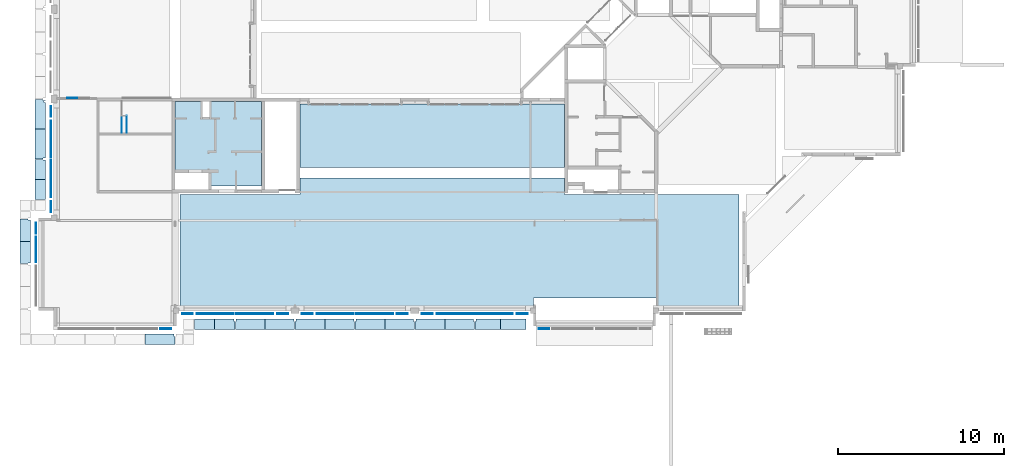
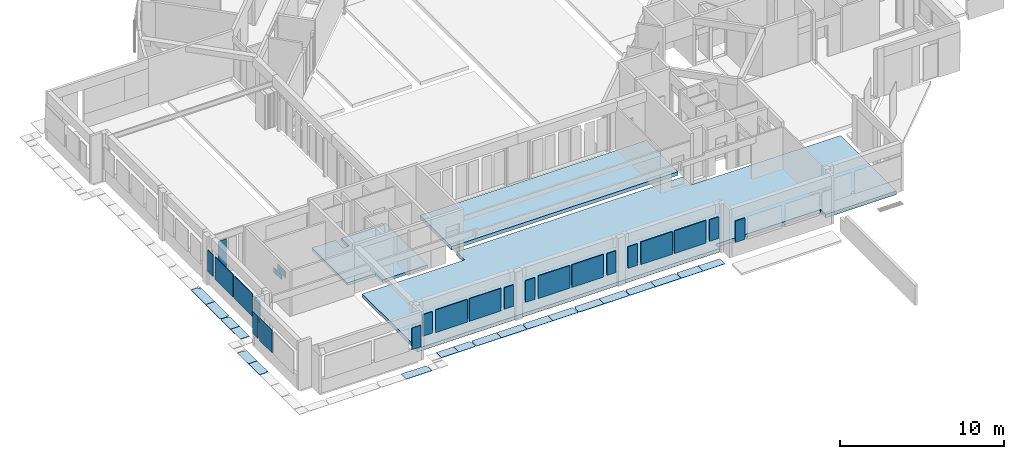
# One storey, part 4 of 30: 24 slabs, 21 plates.
"""IFC4X3_ADD2 building model written with IfcOpenShell, lengths in millimetres."""

from ifc_helpers import new_model, si_unit, direction, frame, frame_2d, origin_with_axes, origin_2d_with_axis, place, context, subcontext, project, spatial, polyline, rectangle, outline, extrude, source, transform, mapped, material, type_object, element, save


model = new_model("IFC4X3_ADD2")

# Units and contexts
model_context = context("Model", 3, precision=1e-05, world=origin_with_axes(), true_north=direction((0.0, 1.0)))
body_context = subcontext(model_context, "Body", "Model", "MODEL_VIEW")
ifc_project = project(units=[si_unit("LENGTHUNIT", "METRE", prefix="MILLI"), si_unit("AREAUNIT", "SQUARE_METRE"), si_unit("VOLUMEUNIT", "CUBIC_METRE"), si_unit("PLANEANGLEUNIT", "RADIAN"), si_unit("TIMEUNIT", "SECOND"), si_unit("MASSUNIT", "GRAM")], contexts=[model_context])

# Site, building, storey
site_placement = place(None, origin_with_axes())
site = spatial("IfcSite", under=ifc_project, at=site_placement, Name="Site", CompositionType="ELEMENT")
building_placement = place(site_placement, origin_with_axes())
building = spatial("IfcBuilding", under=site, at=building_placement, Name="IFC Building Story")
storey_placement = place(building_placement, origin_with_axes())
storey = spatial("IfcBuildingStorey", under=building, at=storey_placement, Name="000", Elevation=0.0)

# Slab
ifc_material_1 = material(Name="BB_Beton_Bestaand")
slab_type_1 = type_object("IfcSlabType", Name="BB_Beton_Bestaand 200", PredefinedType="FLOOR", material=ifc_material_1)
slab_1_placement = place(storey_placement, frame((-43499.99999999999, 7400.000000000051, -280.0), z_axis=(0.0, 0.0, 1.0), x_axis=(1.0, 0.0, 0.0)))
element("IfcSlab", 1, at=slab_1_placement, inside=storey, type_object=slab_type_1, Name="Floor:BB_XX_Vloer uit beton, 200 mm", ObjectType="Floor:BB_XX_Vloer uit beton, 200 mm", PredefinedType="FLOOR", context=body_context, shape_type="SweptSolid", body=[
    extrude(outline(polyline([(-181.999999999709, -3030.002439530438), (-181.999999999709, -2230.002439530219), (-2181.999999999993, -2230.002439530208), (-2181.999999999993, 2070.001626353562), (-531.9999999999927, 2070.001626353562), (-531.9999999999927, 1120.001626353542), (-122.0, 1120.001626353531), (-122.0, 2070.001626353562), (3017.999999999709, 2070.001626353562), (3017.999999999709, -3030.002439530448), (-181.999999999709, -3030.002439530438)])), frame((2181.999999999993, 3030.002439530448, 0.0), z_axis=(0.0, 0.0, 1.0), x_axis=(1.0, 0.0, 0.0)), (0.0, 0.0, 1.0), 200.0),
])

# Plates
ifc_material_2 = material(Name="BB_Glas")
shared_shape_1 = source(origin_with_axes(), body_context, "Body", "SweptSolid", [
    extrude(rectangle(XDim=1602.000000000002, YDim=652.000000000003, at=frame_2d((0.0, 0.0), x_axis=(0.0, 1.0))), frame((0.0, 0.0, -44.0), z_axis=(0.0, 0.0, 1.0), x_axis=(1.0, 0.0, 0.0)), (0.0, 0.0, 1.0), 44.0),
])
for number, where, z_axis, x_axis in (
    (2, (-28356.0, -287.499999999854, 1765.0), (0.0, -1.0, 0.0), (1.0, 0.0, 0.0)),
    (3, (-22644.0, -287.499999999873, 1765.0), (0.0, -1.0, 0.0), (1.0, 0.0, 0.0)),
    (4, (-21336.0, -1187.50000000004, 1765.0), (0.0, -1.0, 0.0), (1.0, 0.0, 0.0)),
    (5, (-35556.0, -287.499999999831, 1765.0), (0.0, -1.0, 0.0), (1.0, 0.0, 0.0)),
    (6, (-29844.0, -287.49999999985, 1765.0), (0.0, -1.0, 0.0), (1.0, 0.0, 0.0)),
    (7, (-42756.0, -287.499999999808, 1765.0), (0.0, -1.0, 0.0), (1.0, 0.0, 0.0)),
    (8, (-37044.0, -287.499999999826, 1765.0), (0.0, -1.0, 0.0), (1.0, 0.0, 0.0)),
    (9, (-50987.4999999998, 11886.0, 1765.0), (-1.0, 0.0, 0.0), (0.0, -1.0, 0.0)),
    (10, (-50987.4999999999, 6174.0, 1765.0), (-1.0, 0.0, 0.0), (0.0, -1.0, 0.0)),
    (11, (-51887.5000000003, 4866.0, 1765.0), (-1.0, 0.0, 0.0), (0.0, -1.0, 0.0)),
):
    element("IfcPlate", number, at=place(storey_placement, frame(where, z_axis=z_axis, x_axis=x_axis)), inside=storey, material=ifc_material_2, Name="BB_07.06_Buitenbeglazing, rechthoekig_GMO:07.06.72#02_Drievoudige beglazing, 44 mm, A/A*/P4A RC2, -1 en +0", ObjectType="BB_07.06_Buitenbeglazing, rechthoekig_GMO:07.06.72#02_Drievoudige beglazing, 44 mm, A/A*/P4A RC2, -1 en +0", PredefinedType="USERDEFINED", context=body_context, shape_type="MappedRepresentation", body=[
        mapped(shared_shape_1, transform((0.0, 0.0, 0.0))),
    ])
shared_shape_2 = source(origin_with_axes(), body_context, "Body", "SweptSolid", [
    extrude(rectangle(XDim=2222.0, YDim=1680.000000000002, at=origin_2d_with_axis()), frame((0.0, 0.0, -44.0), z_axis=(0.0, 0.0, 1.0), x_axis=(1.0, 0.0, 0.0)), (0.0, 0.0, 1.0), 44.0),
])
for number, where, z_axis, x_axis in (
    (12, (-26681.0, -287.499999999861, 1765.0), (0.0, -1.0, 0.0), (1.0, 0.0, 0.0)),
    (13, (-24319.0, -287.499999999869, 1765.0), (0.0, -1.0, 0.0), (1.0, 0.0, 0.0)),
    (14, (-33881.0, -287.499999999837, 1765.0), (0.0, -1.0, 0.0), (1.0, 0.0, 0.0)),
    (15, (-31519.0, -287.499999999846, 1765.0), (0.0, -1.0, 0.0), (1.0, 0.0, 0.0)),
    (16, (-41081.0, -287.499999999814, 1765.0), (0.0, -1.0, 0.0), (1.0, 0.0, 0.0)),
    (17, (-38719.0, -287.499999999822, 1765.0), (0.0, -1.0, 0.0), (1.0, 0.0, 0.0)),
    (18, (-50987.4999999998, 10211.0, 1765.0), (-1.0, 0.0, 0.0), (0.0, -1.0, 0.0)),
    (19, (-50987.4999999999, 7849.0, 1765.0), (-1.0, 0.0, 0.0), (0.0, -1.0, 0.0)),
):
    element("IfcPlate", number, at=place(storey_placement, frame(where, z_axis=z_axis, x_axis=x_axis)), inside=storey, material=ifc_material_2, Name="BB_07.06_Buitenbeglazing, rechthoekig_GMO:07.06.72#02_Drievoudige beglazing, 44 mm, A/A*/P4A RC2, -1 en +0", ObjectType="BB_07.06_Buitenbeglazing, rechthoekig_GMO:07.06.72#02_Drievoudige beglazing, 44 mm, A/A*/P4A RC2, -1 en +0", PredefinedType="USERDEFINED", context=body_context, shape_type="MappedRepresentation", body=[
        mapped(shared_shape_2, transform((0.0, 0.0, 0.0))),
    ])
shared_shape_3 = source(origin_with_axes(), body_context, "Body", "SweptSolid", [
    extrude(rectangle(XDim=1602.000000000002, YDim=652.0000000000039, at=frame_2d((0.0, 0.0), x_axis=(0.0, 1.0))), frame((0.0, 0.0, -44.0), z_axis=(0.0, 0.0, 1.0), x_axis=(1.0, 0.0, 0.0)), (0.0, 0.0, 1.0), 44.0),
])
plate_1_placement = place(storey_placement, frame((-44064.0, -1187.49999999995, 1765.0), z_axis=(0.0, -1.0, 0.0), x_axis=(-1.0, 0.0, 0.0)))
element("IfcPlate", 20, at=plate_1_placement, inside=storey, material=ifc_material_2, Name="BB_07.06_Buitenbeglazing, rechthoekig_GMO:07.06.72#02_Drievoudige beglazing, 44 mm, A/A*/P4A RC2, -1 en +0", ObjectType="BB_07.06_Buitenbeglazing, rechthoekig_GMO:07.06.72#02_Drievoudige beglazing, 44 mm, A/A*/P4A RC2, -1 en +0", PredefinedType="USERDEFINED", context=body_context, shape_type="MappedRepresentation", body=[
    mapped(shared_shape_3, transform((0.0, 0.0, 0.0))),
])
shared_shape_4 = source(origin_with_axes(), body_context, "Body", "SweptSolid", [
    extrude(rectangle(XDim=1680.000000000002, YDim=1532.000000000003, at=frame_2d((0.0, 0.0), x_axis=(0.0, 1.0))), frame((0.0, 0.0, -44.0), z_axis=(0.0, 0.0, 1.0), x_axis=(1.0, 0.0, 0.0)), (0.0, 0.0, 1.0), 44.0),
])
plate_2_placement = place(storey_placement, frame((-51887.5000000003, 3596.0, 1765.0), z_axis=(-1.0, 0.0, 0.0), x_axis=(0.0, -1.0, 0.0)))
element("IfcPlate", 21, at=plate_2_placement, inside=storey, material=ifc_material_2, Name="BB_07.06_Buitenbeglazing, rechthoekig_GMO:07.06.72#02_Drievoudige beglazing, 44 mm, A/A*/P4A RC2, -1 en +0", ObjectType="BB_07.06_Buitenbeglazing, rechthoekig_GMO:07.06.72#02_Drievoudige beglazing, 44 mm, A/A*/P4A RC2, -1 en +0", PredefinedType="USERDEFINED", context=body_context, shape_type="MappedRepresentation", body=[
    mapped(shared_shape_4, transform((0.0, 0.0, 0.0))),
])
shared_shape_5 = source(origin_with_axes(), body_context, "Body", "SweptSolid", [
    extrude(rectangle(XDim=2462.0, YDim=592.500000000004, at=frame_2d((0.0, 0.0), x_axis=(0.0, 1.0))), frame((0.0, 0.0, -17.0), z_axis=(0.0, 0.0, 1.0), x_axis=(1.0, 0.0, 0.0)), (0.0, 0.0, 1.0), 17.0),
])
plate_3_placement = place(storey_placement, frame((-49686.7499999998, 12703.0040658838, 1315.0), z_axis=(0.0, 1.0, 0.0), x_axis=(-1.0, 0.0, 0.0)))
element("IfcPlate", 22, at=plate_3_placement, inside=storey, material=ifc_material_2, Name="BB_10.10_Binnenbeglazing, rechthoekig_GMO:10.10.32#02_Enkelvoudige beglazing, 2B2, 40dB", ObjectType="BB_10.10_Binnenbeglazing, rechthoekig_GMO:10.10.32#02_Enkelvoudige beglazing, 2B2, 40dB", PredefinedType="USERDEFINED", context=body_context, shape_type="MappedRepresentation", body=[
    mapped(shared_shape_5, transform((0.0, 0.0, 0.0))),
])

# Slabs
slab_type_2 = type_object("IfcSlabType", Name="BB_Beton_Bestaand 260", PredefinedType="FLOOR", material=ifc_material_1)
slab_2_placement = place(storey_placement, frame((-43200.00000000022, 95.00000000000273, -460.0), z_axis=(0.0, 0.0, 1.0), x_axis=(1.0, 0.0, 0.0)))
element("IfcSlab", 23, at=slab_2_placement, inside=storey, type_object=slab_type_2, Name="Floor:BB_XX_Vloer uit beton, 260 mm", ObjectType="Floor:BB_XX_Vloer uit beton, 260 mm", PredefinedType="FLOOR", context=body_context, shape_type="SweptSolid", body=[
    extrude(outline(polyline([(2274.999999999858, -3084.166666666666), (2274.999999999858, -3584.166666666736), (-18950.00000000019, -3584.166666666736), (-18950.0000000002, 3120.833333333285), (-11750.00000000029, 3120.833333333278), (-11750.00000000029, 4110.833333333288), (4150.000000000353, 4110.833333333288), (4150.000000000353, 3120.833333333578), (14624.99999999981, 3120.833333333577), (14624.99999999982, -3684.166666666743), (9650.00000000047, -3684.166666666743), (9650.000000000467, -3084.166666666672), (2274.999999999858, -3084.166666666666)])), frame((18950.0000000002, 3684.166666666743, 0.0), z_axis=(0.0, 0.0, 1.0), x_axis=(1.0, 0.0, 0.0)), (0.0, 0.0, 1.0), 260.0),
])
slab_3_placement = place(storey_placement, frame((-36000.0000000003, 8510.00000000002, -460.0), z_axis=(0.0, 0.0, 1.0), x_axis=(1.0, 0.0, 0.0)))
element("IfcSlab", 24, at=slab_3_placement, inside=storey, type_object=slab_type_2, Name="Floor:BB_XX_Vloer uit beton, 260 mm", ObjectType="Floor:BB_XX_Vloer uit beton, 260 mm", PredefinedType="FLOOR", context=body_context, shape_type="SweptSolid", body=[
    extrude(rectangle(XDim=15900.0000000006, YDim=3839.99999999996, at=origin_2d_with_axis()), frame((7950.000000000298, 1919.99999999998, 0.0), z_axis=(0.0, 0.0, 1.0), x_axis=(1.0, 0.0, 0.0)), (0.0, 0.0, 1.0), 260.0),
])
ifc_material_3 = material(Name="BB_09.08.21#03_Vloer_Verhoogd_Bestaande te verhogen")
slab_type_3 = type_object("IfcSlabType", Name="BB_09.08.21#03_Vloer_Verhoogd_Bestaande te verhogen 20", PredefinedType="FLOOR", material=ifc_material_3)
slab_4_placement = place(storey_placement, frame((-46715.0, 11625.0040658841, -200.0), z_axis=(-1.0, 0.0, 0.0), x_axis=(0.0, -1.0, 0.0)))
element("IfcSlab", 25, at=slab_4_placement, inside=storey, type_object=slab_type_3, Name="Basic Wall:BB_09.08.XX_Rand verhoogde vloer, 20 mm", ObjectType="Basic Wall:BB_09.08.XX_Rand verhoogde vloer, 20 mm", PredefinedType="FLOOR", context=body_context, shape_type="SweptSolid", body=[
    extrude(outline(polyline([(-500.0, 172.5), (500.0, 172.5), (500.0, -172.5), (-500.0, -172.5), (-500.0, 172.5)])), frame((500.0, 172.5, -20.0), z_axis=(0.0, 0.0, 1.0), x_axis=(1.0, 0.0, 0.0)), (0.0, 0.0, 1.0), 19.99999999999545),
])
slab_5_placement = place(storey_placement, frame((-46415.0, 11625.0040658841, -200.0), z_axis=(-1.0, 0.0, 0.0), x_axis=(0.0, -1.0, 0.0)))
element("IfcSlab", 26, at=slab_5_placement, inside=storey, type_object=slab_type_3, Name="Basic Wall:BB_09.08.XX_Rand verhoogde vloer, 20 mm", ObjectType="Basic Wall:BB_09.08.XX_Rand verhoogde vloer, 20 mm", PredefinedType="FLOOR", context=body_context, shape_type="SweptSolid", body=[
    extrude(outline(polyline([(-500.0, 247.5), (500.0, 247.5), (500.0, -247.5), (-500.0, -247.5), (-500.0, 247.5)])), frame((500.0, 247.5, -20.0), z_axis=(0.0, 0.0, 1.0), x_axis=(1.0, 0.0, 0.0)), (0.0, 0.0, 1.0), 19.99999999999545),
])
ifc_material_4 = material(Name="Steel, Galvanized - looprooster")
slab_type_4 = type_object("IfcSlabType", Name="Steel, Galvanized - looprooster 30", PredefinedType="FLOOR", material=ifc_material_4)
slab_6_placement = place(storey_placement, frame((-52819.99783771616, 4080.001963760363, -350.0), z_axis=(0.0, 0.0, 1.0), x_axis=(0.0, -1.0, 0.0)))
element("IfcSlab", 27, at=slab_6_placement, inside=storey, type_object=slab_type_4, Name="Floor:GVH - Looprooster 30 mm", ObjectType="Floor:GVH - Looprooster 30 mm", PredefinedType="FLOOR", context=body_context, shape_type="SweptSolid", body=[
    extrude(outline(polyline([(368.5004999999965, -267.5009748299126), (281.5004999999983, -267.5009748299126), (281.5004999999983, -282.4986745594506), (-966.5014999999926, -282.4986745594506), (-966.5014999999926, 347.5013254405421), (316.5004999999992, 347.5013254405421), (316.5004999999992, 202.4983239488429), (368.5004999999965, 202.4983239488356), (368.5004999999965, -267.5009748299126)])), frame((966.5014999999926, 282.4986745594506, 0.0), z_axis=(0.0, 0.0, 1.0), x_axis=(1.0, 0.0, 0.0)), (0.0, 0.0, 1.0), 30.0),
])
slab_7_placement = place(storey_placement, frame((-41122.99796376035, -1219.998397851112, -350.0), z_axis=(0.0, 0.0, 1.0), x_axis=(1.0, 0.0, 0.0)))
element("IfcSlab", 28, at=slab_7_placement, inside=storey, type_object=slab_type_4, Name="Floor:GVH - Looprooster 30 mm", ObjectType="Floor:GVH - Looprooster 30 mm", PredefinedType="FLOOR", context=body_context, shape_type="SweptSolid", body=[
    extrude(outline(polyline([(275.9995000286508, -267.4995632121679), (275.9995000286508, -282.4992199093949), (-879.9985000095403, -282.4992199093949), (-879.9985000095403, 347.5004367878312), (275.9994999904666, 347.5004367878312), (275.9994999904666, 202.4983463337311), (327.9994999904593, 202.4983463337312), (327.9994999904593, -267.4995632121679), (275.9995000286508, -267.4995632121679)])), frame((879.9985000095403, 282.4992199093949, 0.0), z_axis=(0.0, 0.0, 1.0), x_axis=(1.0, 0.0, 0.0)), (0.0, 0.0, 1.0), 30.0),
])
slab_8_placement = place(storey_placement, frame((-38099.99800000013, -1219.99839785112, -350.0), z_axis=(0.0, 0.0, 1.0), x_axis=(1.0, 0.0, 0.0)))
element("IfcSlab", 29, at=slab_8_placement, inside=storey, type_object=slab_type_4, Name="Floor:GVH - Looprooster 30 mm", ObjectType="Floor:GVH - Looprooster 30 mm", PredefinedType="FLOOR", context=body_context, shape_type="SweptSolid", body=[
    extrude(outline(polyline([(420.2495181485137, -267.499561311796), (420.2495181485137, -282.499218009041), (-1312.748518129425, -282.499218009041), (-1312.748518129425, 347.500438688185), (420.2495181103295, 347.500438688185), (420.2495181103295, 202.498340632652), (472.2494818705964, 202.498340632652), (472.2494818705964, -267.499561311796), (420.2495181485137, -267.499561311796)])), frame((1312.748518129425, 282.499218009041, 0.0), z_axis=(0.0, 0.0, 1.0), x_axis=(1.0, 0.0, 0.0)), (0.0, 0.0, 1.0), 30.0),
])
slab_9_placement = place(storey_placement, frame((-51919.99839785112, 12614.99596376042, -350.0), z_axis=(0.0, 0.0, 1.0), x_axis=(0.0, -1.0, 0.0)))
element("IfcSlab", 30, at=slab_9_placement, inside=storey, type_object=slab_type_4, Name="Floor:GVH - Looprooster 30 mm", ObjectType="Floor:GVH - Looprooster 30 mm", PredefinedType="FLOOR", context=body_context, shape_type="SweptSolid", body=[
    extrude(outline(polyline([(-178.1662999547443, 246.667989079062), (1421.831700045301, 246.667989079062), (1421.831700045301, -383.3320109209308), (-311.1665002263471, -383.3320109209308), (-311.1665002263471, -368.3342997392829), (-363.1662999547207, -368.3342997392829), (-363.1662999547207, 101.6655477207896), (-311.166299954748, 101.6655477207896), (-311.166299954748, 246.667989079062), (-258.1662999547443, 246.667989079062), (-258.1662999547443, 156.6647847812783), (-178.1662999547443, 156.6647847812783), (-178.1662999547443, 246.667989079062)])), frame((363.1662999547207, 383.3320109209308, 0.0), z_axis=(0.0, 0.0, 1.0), x_axis=(1.0, 0.0, 0.0)), (0.0, 0.0, 1.0), 30.0),
])
slab_10_placement = place(storey_placement, frame((-51919.99839785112, 10829.99796376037, -350.0), z_axis=(0.0, 0.0, 1.0), x_axis=(0.0, -1.0, 0.0)))
element("IfcSlab", 31, at=slab_10_placement, inside=storey, type_object=slab_type_4, Name="Floor:GVH - Looprooster 30 mm", ObjectType="Floor:GVH - Looprooster 30 mm", PredefinedType="FLOOR", context=body_context, shape_type="SweptSolid", body=[
    extrude(outline(polyline([(472.2504499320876, -267.5017166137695), (420.2506502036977, -267.5017166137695), (420.2506502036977, -282.4994277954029), (-1312.751550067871, -282.4994277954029), (-1312.751550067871, 347.5005722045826), (420.2504499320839, 347.5005722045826), (420.2504499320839, 202.5005722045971), (472.2504499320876, 202.5005722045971), (472.2504499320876, -267.5017166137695)])), frame((1312.751550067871, 282.4994277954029, 0.0), z_axis=(0.0, 0.0, 1.0), x_axis=(1.0, 0.0, 0.0)), (0.0, 0.0, 1.0), 30.0),
])
slab_11_placement = place(storey_placement, frame((-51919.99595649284, 9014.999963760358, -350.0), z_axis=(0.0, 0.0, 1.0), x_axis=(0.0, -1.0, 0.0)))
element("IfcSlab", 32, at=slab_11_placement, inside=storey, type_object=slab_type_4, Name="Floor:GVH - Looprooster 30 mm", ObjectType="Floor:GVH - Looprooster 30 mm", PredefinedType="FLOOR", context=body_context, shape_type="SweptSolid", body=[
    extrude(outline(polyline([(-276.1251271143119, 347.501045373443), (880.3755777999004, 347.501045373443), (880.3755777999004, -282.4989546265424), (-276.1253235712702, -282.4989546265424), (-276.1253235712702, -267.5006947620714), (-328.1251271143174, -267.5006947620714), (-328.1251271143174, 202.4986040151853), (-276.1251271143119, 202.4986040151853), (-276.1251271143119, 347.501045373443)])), frame((328.1251271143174, 282.4989546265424, 0.0), z_axis=(0.0, 0.0, 1.0), x_axis=(1.0, 0.0, 0.0)), (0.0, 0.0, 1.0), 30.0),
])
slab_12_placement = place(storey_placement, frame((-51919.99595649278, 7806.499258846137, -350.0), z_axis=(0.0, 0.0, 1.0), x_axis=(0.0, -1.0, 0.0)))
element("IfcSlab", 33, at=slab_12_placement, inside=storey, type_object=slab_type_4, Name="Floor:GVH - Looprooster 30 mm", ObjectType="Floor:GVH - Looprooster 30 mm", PredefinedType="FLOOR", context=body_context, shape_type="SweptSolid", body=[
    extrude(rectangle(XDim=1207.998000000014, YDim=629.9999999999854, at=frame_2d((0.0, 0.0), x_axis=(-1.0, 0.0))), frame((603.9990000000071, 314.9999999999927, 0.0), z_axis=(0.0, 0.0, 1.0), x_axis=(1.0, 0.0, 0.0)), (0.0, 0.0, 1.0), 30.0),
])
slab_13_placement = place(storey_placement, frame((-36285.00000000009, -1219.99839785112, -350.0), z_axis=(0.0, 0.0, 1.0), x_axis=(1.0, 0.0, 0.0)))
element("IfcSlab", 34, at=slab_13_placement, inside=storey, type_object=slab_type_4, Name="Floor:GVH - Looprooster 30 mm", ObjectType="Floor:GVH - Looprooster 30 mm", PredefinedType="FLOOR", context=body_context, shape_type="SweptSolid", body=[
    extrude(outline(polyline([(-420.2495181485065, -282.499218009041), (-420.2495181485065, -267.499561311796), (-472.2494818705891, -267.499561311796), (-472.2494818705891, 202.498340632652), (-420.2495181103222, 202.498340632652), (-420.2495181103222, 347.500438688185), (1312.748518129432, 347.500438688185), (1312.748518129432, -282.499218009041), (-420.2495181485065, -282.499218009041)])), frame((472.2494818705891, 282.499218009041, 0.0), z_axis=(0.0, 0.0, 1.0), x_axis=(1.0, 0.0, 0.0)), (0.0, 0.0, 1.0), 30.0),
])
slab_14_placement = place(storey_placement, frame((-32684.99996376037, -1219.998390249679, -350.0), z_axis=(0.0, 0.0, 1.0), x_axis=(1.0, 0.0, 0.0)))
element("IfcSlab", 35, at=slab_14_placement, inside=storey, type_object=slab_type_4, Name="Floor:GVH - Looprooster 30 mm", ObjectType="Floor:GVH - Looprooster 30 mm", PredefinedType="FLOOR", context=body_context, shape_type="SweptSolid", body=[
    extrude(outline(polyline([(-393.9994909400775, -282.4992180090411), (-393.9994909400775, -267.4995613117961), (-480.9994909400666, -267.4995613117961), (-480.9994909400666, 202.4983406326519), (-428.9995271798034, 202.4983406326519), (-428.9995271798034, 347.5004386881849), (1303.99850905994, 347.5004386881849), (1303.99850905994, -282.4992180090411), (-393.9994909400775, -282.4992180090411)])), frame((480.9994909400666, 282.4992180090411, 0.0), z_axis=(0.0, 0.0, 1.0), x_axis=(1.0, 0.0, 0.0)), (0.0, 0.0, 1.0), 30.0),
])
slab_15_placement = place(storey_placement, frame((-29085.00000000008, -1219.99839785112, -350.0), z_axis=(0.0, 0.0, 1.0), x_axis=(1.0, 0.0, 0.0)))
element("IfcSlab", 36, at=slab_15_placement, inside=storey, type_object=slab_type_4, Name="Floor:GVH - Looprooster 30 mm", ObjectType="Floor:GVH - Looprooster 30 mm", PredefinedType="FLOOR", context=body_context, shape_type="SweptSolid", body=[
    extrude(outline(polyline([(-420.2495181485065, -282.499218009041), (-420.2495181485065, -267.499561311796), (-472.2494818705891, -267.499561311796), (-472.2494818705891, 202.498340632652), (-420.2495181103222, 202.498340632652), (-420.2495181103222, 347.500438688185), (1312.748518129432, 347.500438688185), (1312.748518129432, -282.499218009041), (-420.2495181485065, -282.499218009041)])), frame((472.2494818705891, 282.499218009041, 0.0), z_axis=(0.0, 0.0, 1.0), x_axis=(1.0, 0.0, 0.0)), (0.0, 0.0, 1.0), 30.0),
])
slab_16_placement = place(storey_placement, frame((-25484.99996376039, -1219.998397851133, -350.0), z_axis=(0.0, 0.0, 1.0), x_axis=(1.0, 0.0, 0.0)))
element("IfcSlab", 37, at=slab_16_placement, inside=storey, type_object=slab_type_4, Name="Floor:GVH - Looprooster 30 mm", ObjectType="Floor:GVH - Looprooster 30 mm", PredefinedType="FLOOR", context=body_context, shape_type="SweptSolid", body=[
    extrude(outline(polyline([(-358.9995181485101, -282.4992180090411), (-358.9995181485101, -267.4995613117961), (-410.9994818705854, -267.4995613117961), (-410.9994818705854, 202.4983406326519), (-358.9995181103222, 202.4983406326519), (-358.9995181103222, 347.5004386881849), (1128.998518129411, 347.5004386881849), (1128.998518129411, -282.4992180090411), (-358.9995181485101, -282.4992180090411)])), frame((410.9994818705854, 282.4992180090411, 0.0), z_axis=(0.0, 0.0, 1.0), x_axis=(1.0, 0.0, 0.0)), (0.0, 0.0, 1.0), 30.0),
])
slab_17_placement = place(storey_placement, frame((-39884.99600000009, -1219.99839785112, -350.0), z_axis=(0.0, 0.0, 1.0), x_axis=(1.0, 0.0, 0.0)))
element("IfcSlab", 38, at=slab_17_placement, inside=storey, type_object=slab_type_4, Name="Floor:GVH - Looprooster 30 mm", ObjectType="Floor:GVH - Looprooster 30 mm", PredefinedType="FLOOR", context=body_context, shape_type="SweptSolid", body=[
    extrude(outline(polyline([(-420.2495181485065, -282.499218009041), (-420.2495181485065, -267.499561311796), (-472.2494818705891, -267.499561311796), (-472.2494818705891, 202.498340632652), (-420.2495181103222, 202.498340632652), (-420.2495181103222, 347.500438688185), (1312.748518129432, 347.500438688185), (1312.748518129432, -282.499218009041), (-420.2495181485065, -282.499218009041)])), frame((472.2494818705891, 282.499218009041, 0.0), z_axis=(0.0, 0.0, 1.0), x_axis=(1.0, 0.0, 0.0)), (0.0, 0.0, 1.0), 30.0),
])
slab_18_placement = place(storey_placement, frame((-34500.00200000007, -1219.99839785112, -350.0), z_axis=(0.0, 0.0, 1.0), x_axis=(1.0, 0.0, 0.0)))
element("IfcSlab", 39, at=slab_18_placement, inside=storey, type_object=slab_type_4, Name="Floor:GVH - Looprooster 30 mm", ObjectType="Floor:GVH - Looprooster 30 mm", PredefinedType="FLOOR", context=body_context, shape_type="SweptSolid", body=[
    extrude(outline(polyline([(394.0025181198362, -267.499561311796), (394.0025181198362, -282.499218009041), (-1303.999518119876, -282.499218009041), (-1303.999518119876, 347.500438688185), (428.9985181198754, 347.500438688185), (428.9985181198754, 202.498340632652), (480.9984818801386, 202.498340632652), (480.9984818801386, -267.499561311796), (394.0025181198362, -267.499561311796)])), frame((1303.999518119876, 282.499218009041, 0.0), z_axis=(0.0, 0.0, 1.0), x_axis=(1.0, 0.0, 0.0)), (0.0, 0.0, 1.0), 30.0),
])
slab_19_placement = place(storey_placement, frame((-30900.00196376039, -1219.998390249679, -350.0), z_axis=(0.0, 0.0, 1.0), x_axis=(1.0, 0.0, 0.0)))
element("IfcSlab", 40, at=slab_19_placement, inside=storey, type_object=slab_type_4, Name="Floor:GVH - Looprooster 30 mm", ObjectType="Floor:GVH - Looprooster 30 mm", PredefinedType="FLOOR", context=body_context, shape_type="SweptSolid", body=[
    extrude(outline(polyline([(420.2524909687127, -267.4995613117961), (420.2524909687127, -282.4992180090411), (-1312.749509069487, -282.4992180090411), (-1312.749509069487, 347.5004386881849), (420.2485271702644, 347.5004386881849), (420.2485271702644, 202.4983406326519), (472.2484909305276, 202.4983406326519), (472.2484909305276, -267.4995613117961), (420.2524909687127, -267.4995613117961)])), frame((1312.749509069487, 282.4992180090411, 0.0), z_axis=(0.0, 0.0, 1.0), x_axis=(1.0, 0.0, 0.0)), (0.0, 0.0, 1.0), 30.0),
])
slab_20_placement = place(storey_placement, frame((-27300.00200000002, -1219.99839785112, -350.0), z_axis=(0.0, 0.0, 1.0), x_axis=(1.0, 0.0, 0.0)))
element("IfcSlab", 41, at=slab_20_placement, inside=storey, type_object=slab_type_4, Name="Floor:GVH - Looprooster 30 mm", ObjectType="Floor:GVH - Looprooster 30 mm", PredefinedType="FLOOR", context=body_context, shape_type="SweptSolid", body=[
    extrude(outline(polyline([(420.2495181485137, -267.499561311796), (420.2495181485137, -282.499218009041), (-1312.748518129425, -282.499218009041), (-1312.748518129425, 347.500438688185), (420.2495181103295, 347.500438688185), (420.2495181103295, 202.498340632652), (472.2494818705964, 202.498340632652), (472.2494818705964, -267.499561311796), (420.2495181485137, -267.499561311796)])), frame((1312.748518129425, 282.499218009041, 0.0), z_axis=(0.0, 0.0, 1.0), x_axis=(1.0, 0.0, 0.0)), (0.0, 0.0, 1.0), 30.0),
])
slab_21_placement = place(storey_placement, frame((-42331.5001068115, -1219.998397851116, -350.0), z_axis=(0.0, 0.0, 1.0), x_axis=(1.0, 0.0, 0.0)))
element("IfcSlab", 42, at=slab_21_placement, inside=storey, type_object=slab_type_4, Name="Floor:GVH - Looprooster 30 mm", ObjectType="Floor:GVH - Looprooster 30 mm", PredefinedType="FLOOR", context=body_context, shape_type="SweptSolid", body=[
    extrude(rectangle(XDim=1207.998000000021, YDim=629.9996566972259, at=origin_2d_with_axis()), frame((603.9990000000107, 314.9998283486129, 0.0), z_axis=(0.0, 0.0, 1.0), x_axis=(1.0, 0.0, 0.0)), (0.0, 0.0, 1.0), 30.0),
])
slab_22_placement = place(storey_placement, frame((-23945.00196376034, -1219.998397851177, -350.0), z_axis=(0.0, 0.0, 1.0), x_axis=(1.0, 0.0, 0.0)))
element("IfcSlab", 43, at=slab_22_placement, inside=storey, type_object=slab_type_4, Name="Floor:GVH - Looprooster 30 mm", ObjectType="Floor:GVH - Looprooster 30 mm", PredefinedType="FLOOR", context=body_context, shape_type="SweptSolid", body=[
    extrude(rectangle(XDim=1540.001856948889, YDim=629.9996566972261, at=origin_2d_with_axis()), frame((770.0009284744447, 314.9998283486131, 0.0), z_axis=(0.0, 0.0, 1.0), x_axis=(1.0, 0.0, 0.0)), (0.0, 0.0, 1.0), 30.0),
])
slab_23_placement = place(storey_placement, frame((-52819.99783771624, 5415.003963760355, -350.0), z_axis=(0.0, 0.0, 1.0), x_axis=(0.0, -1.0, 0.0)))
element("IfcSlab", 44, at=slab_23_placement, inside=storey, type_object=slab_type_4, Name="Floor:GVH - Looprooster 30 mm", ObjectType="Floor:GVH - Looprooster 30 mm", PredefinedType="FLOOR", context=body_context, shape_type="SweptSolid", body=[
    extrude(outline(polyline([(-307.7514508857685, 347.5013254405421), (975.2505491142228, 347.5013254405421), (975.2505491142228, -282.4986745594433), (-307.7476473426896, -282.4986745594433), (-307.7476473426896, -267.5009748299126), (-359.7514508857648, -267.5009748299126), (-359.7514508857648, 202.4983239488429), (-307.7514508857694, 202.4983239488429), (-307.7514508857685, 347.5013254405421)])), frame((359.7514508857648, 282.4986745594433, 0.0), z_axis=(0.0, 0.0, 1.0), x_axis=(1.0, 0.0, 0.0)), (0.0, 0.0, 1.0), 30.0),
])
slab_24_placement = place(storey_placement, frame((-45300.00039785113, -2119.998397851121, -350.0), z_axis=(0.0, 0.0, 1.0), x_axis=(1.0, 0.0, 0.0)))
element("IfcSlab", 45, at=slab_24_placement, inside=storey, type_object=slab_type_4, Name="Floor:GVH - Looprooster 30 mm", ObjectType="Floor:GVH - Looprooster 30 mm", PredefinedType="FLOOR", context=body_context, shape_type="SweptSolid", body=[
    extrude(outline(polyline([(420.2495181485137, -267.499561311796), (420.2495181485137, -282.499218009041), (-1312.748518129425, -282.499218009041), (-1312.748518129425, 347.500438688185), (420.2495181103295, 347.500438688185), (420.2495181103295, 202.498340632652), (472.2494818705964, 202.498340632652), (472.2494818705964, -267.499561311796), (420.2495181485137, -267.499561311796)])), frame((1312.748518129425, 282.499218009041, 0.0), z_axis=(0.0, 0.0, 1.0), x_axis=(1.0, 0.0, 0.0)), (0.0, 0.0, 1.0), 30.0),
])

save(model, "model.ifc")
